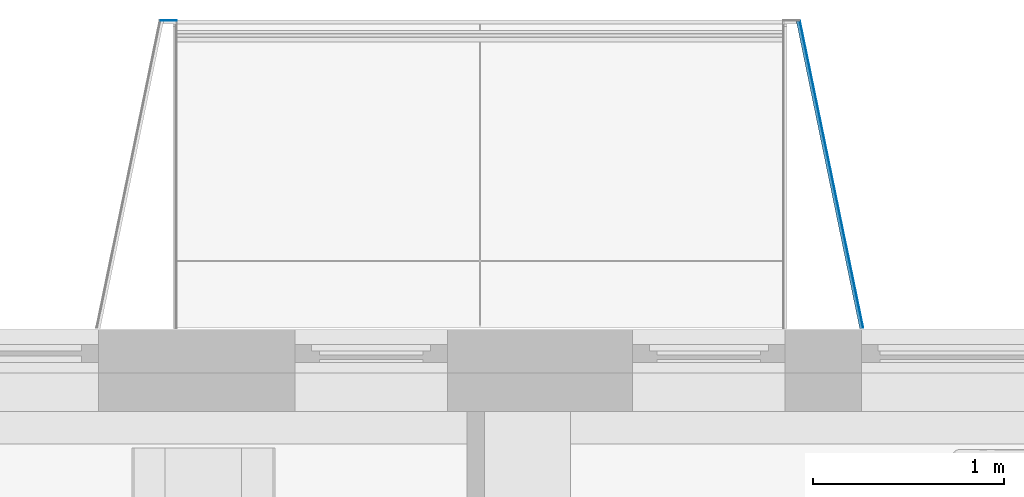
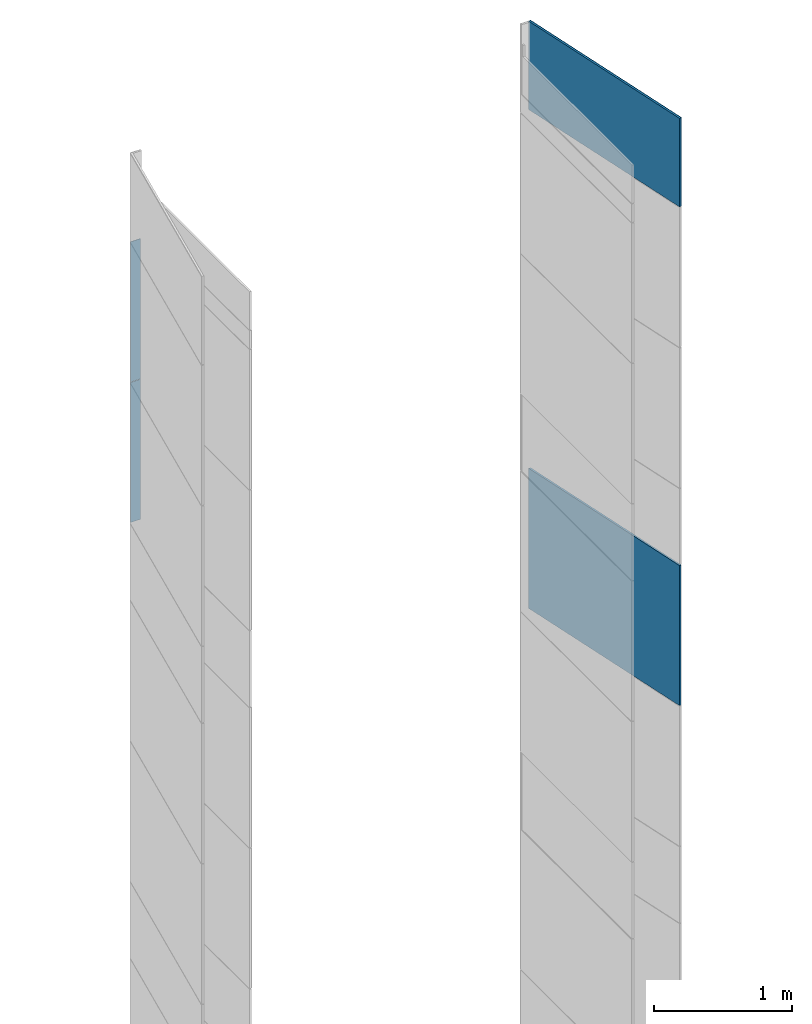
# One storey, part 22 of 125: 5 building element parts, 2 elements without a shape of their own.
"""IFC2X3 building model written with IfcOpenShell, lengths in millimetres."""

from ifc_helpers import new_model, entity, si_unit, converted_unit, direction, frame, origin, place, context, subcontext, project, spatial, polyline, outline, extrude, material, type_object, element, aggregate, save


model = new_model("IFC2X3")

# Units and contexts
model_context = context("Model", 3, precision=0.01, world=origin(), true_north=direction((6.123233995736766e-17, 1.0)))
plan_context = context("Plan", 3, precision=0.01, world=origin(), true_north=direction((6.123233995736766e-17, 1.0)))
body_context = subcontext(model_context, "Body", "Model", "MODEL_VIEW")
ifc_project = project(units=[si_unit("LENGTHUNIT", "METRE", prefix="MILLI"), converted_unit("PLANEANGLEUNIT", "DEGREE", entity("IfcPlaneAngleMeasure", 0.017453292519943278), si_unit("PLANEANGLEUNIT", "RADIAN"), dimensions=[0, 0, 0, 0, 0, 0, 0]), si_unit("AREAUNIT", "SQUARE_METRE")], contexts=[model_context, plan_context])

# Site, building, storey
site_placement = place(None, origin())
site = spatial("IfcSite", under=ifc_project, at=site_placement, Name="Default", CompositionType="ELEMENT")
building_placement = place(site_placement, origin())
building = spatial("IfcBuilding", under=site, at=building_placement, CompositionType="ELEMENT")
storey_placement = place(building_placement, frame((0.0, 0.0, 3125.0)))
storey = spatial("IfcBuildingStorey", under=building, at=storey_placement, Name="2K", CompositionType="ELEMENT", Elevation=3125.0)

# Wall, building element parts
wall_type = type_object("IfcWallType", Name="Basic Wall:VS-komposiit", PredefinedType="STANDARD")
wall_1_placement = place(storey_placement, frame((4963.640832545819, 17442.0, -1010.0)))
wall_1 = element("IfcWall", 1, at=wall_1_placement, inside=storey, type_object=wall_type, Name="Basic Wall:VS-komposiit", ObjectType="Basic Wall:VS-komposiit")
ifc_material_1 = material(Name="_K. Välisviimistlus. Alumiinium-komposiitplaat")
building_element_part_1_placement = place(wall_1_placement, origin())
building_element_part_1 = element("IfcBuildingElementPart", 2, at=building_element_part_1_placement, material=ifc_material_1, Name="Part", context=body_context, shape_type="SweptSolid", body=[
    extrude(outline(polyline([(-42.61260185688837, -2.0), (42.20013519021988, -2.0), (42.20013519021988, 2.0), (-41.78766852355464, 2.0), (-42.61260185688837, -2.0)])), frame((29.57562070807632, 8.0, 10437.499999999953)), (0.0, 0.0, 1.0), 1240.000000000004),
])
building_element_part_2_placement = place(wall_1_placement, origin())
building_element_part_2 = element("IfcBuildingElementPart", 3, at=building_element_part_2_placement, material=ifc_material_1, Name="Part", context=body_context, shape_type="SweptSolid", body=[
    extrude(outline(polyline([(-42.61260185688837, -2.0), (42.20013519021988, -2.0), (42.20013519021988, 2.0), (-41.78766852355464, 2.0), (-42.61260185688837, -2.0)])), frame((29.57562070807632, 8.0, 11682.499999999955)), (0.0, 0.0, 1.0), 1240.000000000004),
])
aggregate(wall_1, [building_element_part_1, building_element_part_2])

wall_2_placement = place(storey_placement, frame((8626.138691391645, 15835.980173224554, -1010.0), z_axis=(0.0, 0.0, 1.0), x_axis=(-0.20198267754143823, 0.9793890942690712, 0.0)))
wall_2 = element("IfcWall", 4, at=wall_2_placement, inside=storey, type_object=wall_type, Name="Basic Wall:VS-komposiit", ObjectType="Basic Wall:VS-komposiit")
building_element_part_3_placement = place(wall_2_placement, origin())
building_element_part_3 = element("IfcBuildingElementPart", 5, at=building_element_part_3_placement, material=ifc_material_1, Name="Part", context=body_context, shape_type="SweptSolid", body=[
    extrude(outline(polyline([(164.4298662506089, -807.2019826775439), (168.5140448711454, -807.2019826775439), (-164.51317737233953, 807.6059480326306), (-168.43073374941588, 806.7980173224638), (164.4298662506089, -807.2019826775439)])), frame((824.189270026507, -8.0, 12927.499999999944), z_axis=(0.0, 0.0, 1.0), x_axis=(0.20198267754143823, 0.9793890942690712, 0.0)), (0.0, 0.0, 1.0), 783.5000000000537),
])
ifc_material_2 = material(Name="_K. Õhk. Roov. Fassaadikatte alusroov. Horisontaalne. 25 mm")
building_element_part_4_placement = place(wall_2_placement, origin())
building_element_part_4 = element("IfcBuildingElementPart", 6, at=building_element_part_4_placement, material=ifc_material_2, Name="Part", context=body_context, shape_type="SweptSolid", body=[
    extrude(outline(polyline([(158.09940945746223, -806.2118960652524), (174.4361239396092, -806.2118960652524), (-158.4326539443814, 807.8277574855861), (-174.10287945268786, 804.5960346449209), (158.09940945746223, -806.2118960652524)])), frame((823.1783473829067, 2.0, 12927.499999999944), z_axis=(0.0, 0.0, 1.0), x_axis=(0.20198267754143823, 0.9793890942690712, 0.0)), (0.0, 0.0, 1.0), 783.5000000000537),
])
building_element_part_5_placement = place(wall_2_placement, origin())
building_element_part_5 = element("IfcBuildingElementPart", 7, at=building_element_part_5_placement, material=ifc_material_2, Name="Part", context=body_context, shape_type="SweptSolid", body=[
    extrude(outline(polyline([(158.09940945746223, -806.2118960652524), (174.4361239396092, -806.2118960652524), (-158.4326539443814, 807.8277574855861), (-174.10287945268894, 804.5960346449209), (158.09940945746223, -806.2118960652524)])), frame((823.1783473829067, 2.0, 8512.499999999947), z_axis=(0.0, 0.0, 1.0), x_axis=(0.20198267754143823, 0.9793890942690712, 0.0)), (0.0, 0.0, 1.0), 1240.0000000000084),
])
aggregate(wall_2, [building_element_part_3, building_element_part_4, building_element_part_5])

save(model, "model.ifc")
